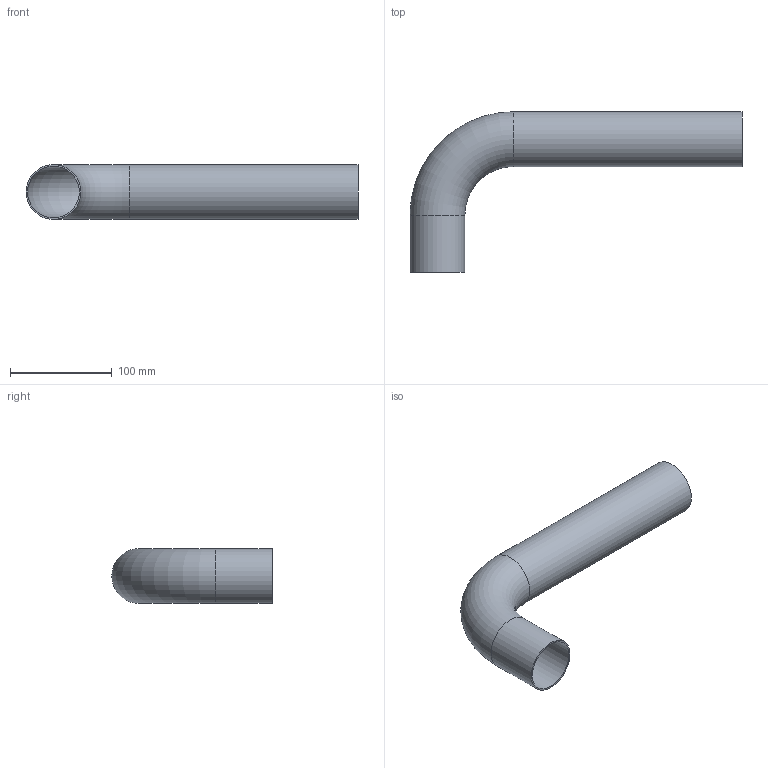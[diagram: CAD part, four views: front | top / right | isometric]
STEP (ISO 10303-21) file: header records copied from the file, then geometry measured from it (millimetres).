
FILE_DESCRIPTION((''),'2;1');
FILE_NAME('G:\Technics\CAD\Bauteile\054\6900354(1).stp','2008-03-05T15:23:15',('herberg'),(''),'Autodesk Inventor 2008','Autodesk Inventor 2008','');
FILE_SCHEMA(('AUTOMOTIVE_DESIGN { 1 0 10303 214 1 1 1 1 }'));
Length unit declared in the file: millimetre
Products named in the file (1): 6900354(1)
Bounding box: 327 x 158 x 54 mm (x, y, z)
Volume: 98665.7 mm3; surface area: 132049.1 mm2
Topology: 1 solids, 1 shells, 8 faces, 14 edges, 8 vertices
Faces by surface type: cylinder 4, torus 2, plane 2
Full cylindrical faces by diameter (mm): 51 x2, 54 x2
Entity records: 194 total; most frequent: DIRECTION 34, CARTESIAN_POINT 25, AXIS2_PLACEMENT_3D 17, ORIENTED_EDGE 16, EDGE_LOOP 16, VERTEX_POINT 8, CIRCLE 8, EDGE_CURVE 8
